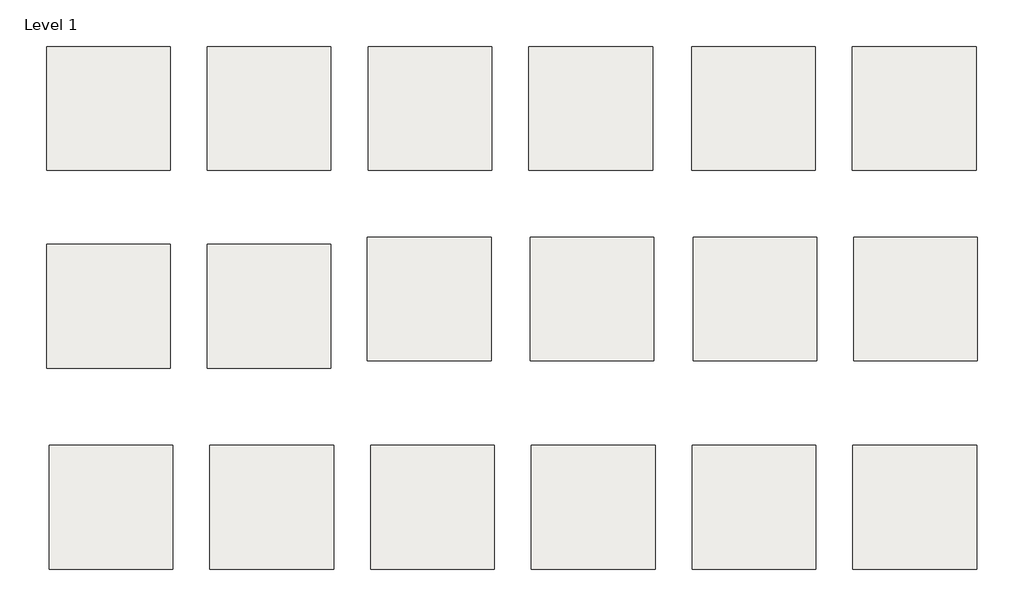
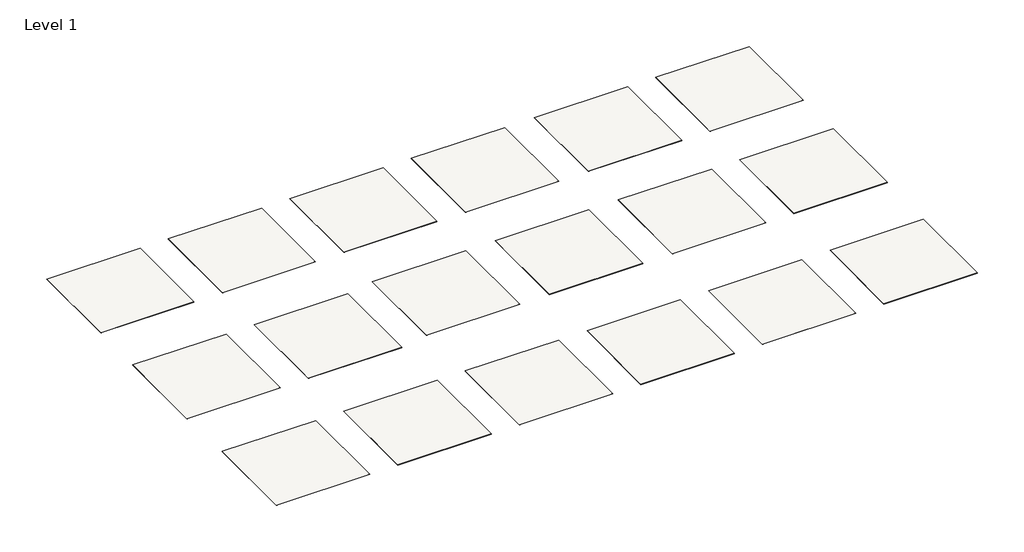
# One storey: 18 slabs.
"""IFC4 building model written with IfcOpenShell, lengths in millimetres."""

from ifc_helpers import new_model, si_unit, frame, origin, place, context, project, spatial, polyline, outline, extrude, element, save

model = new_model("IFC4")

# Units and contexts
model_context = context("Model", 3, world=origin())
ifc_project = project(units=[si_unit("LENGTHUNIT", "METRE", prefix="MILLI")], contexts=[model_context])

# Site, building, storey
site = spatial("IfcSite", under=ifc_project)
building = spatial("IfcBuilding", under=site)
storey = spatial("IfcBuildingStorey", under=building, Name="Level 1", Elevation=0.0)

# Slabs
placement = place(None, origin())
element("IfcSlab", 1, ObjectType="Armstrong_ColorArt_Medintech_84163 Almond", at=placement, inside=storey, context=model_context, shape_type="SweptSolid", body=[
    extrude(outline(polyline([(3311.6055838, 2884.7695431), (3311.6055838, 1360.7695431), (1787.6055838, 1360.7695431), (1787.6055838, 2884.7695431), (3311.6055838, 2884.7695431)])), frame((0.0, 0.0, -2.4804688), z_axis=(0.0, 0.0, 1.0), x_axis=(1.0, 0.0, 0.0)), (0.0, 0.0, 1.0), 2.4804688),
])
element("IfcSlab", 2, ObjectType="Armstrong_ColorArt_Medintech_84410 Color Fleck", at=placement, inside=storey, context=model_context, shape_type="SweptSolid", body=[
    extrude(outline(polyline([(7274.0055838, 2884.7695431), (7274.0055838, 1360.7695431), (5750.0055838, 1360.7695431), (5750.0055838, 2884.7695431), (7274.0055838, 2884.7695431)])), frame((0.0, 0.0, -2.4804688), z_axis=(0.0, 0.0, 1.0), x_axis=(1.0, 0.0, 0.0)), (0.0, 0.0, 1.0), 2.4804688),
])
element("IfcSlab", 3, ObjectType="Armstrong_ColorArt_Medintech_84620 Chateau Gray", at=placement, inside=storey, context=model_context, shape_type="SweptSolid", body=[
    extrude(outline(polyline([(9255.2055838, 2884.7695431), (9255.2055838, 1360.7695431), (7731.2055838, 1360.7695431), (7731.2055838, 2884.7695431), (9255.2055838, 2884.7695431)])), frame((0.0, 0.0, -2.4804688), z_axis=(0.0, 0.0, 1.0), x_axis=(1.0, 0.0, 0.0)), (0.0, 0.0, 1.0), 2.4804688),
])
element("IfcSlab", 4, ObjectType="Armstrong_ColorArt_Medintech_84760 Ixia", at=placement, inside=storey, context=model_context, shape_type="SweptSolid", body=[
    extrude(outline(polyline([(11261.8055838, 2884.7695431), (11261.8055838, 1360.7695431), (9737.8055838, 1360.7695431), (9737.8055838, 2884.7695431), (11261.8055838, 2884.7695431)])), frame((0.0, 0.0, -2.4804688), z_axis=(0.0, 0.0, 1.0), x_axis=(1.0, 0.0, 0.0)), (0.0, 0.0, 1.0), 2.4804688),
])
element("IfcSlab", 5, ObjectType="Armstrong_ColorArt_Medintech_84850 Freesia Pearl", at=placement, inside=storey, context=model_context, shape_type="SweptSolid", body=[
    extrude(outline(polyline([(13243.0055838, 2884.7695431), (13243.0055838, 1360.7695431), (11719.0055838, 1360.7695431), (11719.0055838, 2884.7695431), (13243.0055838, 2884.7695431)])), frame((0.0, 0.0, -2.4804688), z_axis=(0.0, 0.0, 1.0), x_axis=(1.0, 0.0, 0.0)), (0.0, 0.0, 1.0), 2.4804688),
])
element("IfcSlab", 6, ObjectType="Armstrong_ColorArt_Medintech_84880 Dahlia Sky", at=placement, inside=storey, context=model_context, shape_type="SweptSolid", body=[
    extrude(outline(polyline([(3311.6055838, 446.3695431), (3311.6055838, -1077.6304569), (1787.6055838, -1077.6304569), (1787.6055838, 446.3695431), (3311.6055838, 446.3695431)])), frame((0.0, 0.0, -2.4804688), z_axis=(0.0, 0.0, 1.0), x_axis=(1.0, 0.0, 0.0)), (0.0, 0.0, 1.0), 2.4804688),
])
element("IfcSlab", 7, ObjectType="Armstrong_ColorArt_Medintech_84970 Brushed Sand", at=placement, inside=storey, context=model_context, shape_type="SweptSolid", body=[
    extrude(outline(polyline([(5292.8055838, 446.3695431), (5292.8055838, -1077.6304569), (3768.8055838, -1077.6304569), (3768.8055838, 446.3695431), (5292.8055838, 446.3695431)])), frame((0.0, 0.0, -2.4804688), z_axis=(0.0, 0.0, 1.0), x_axis=(1.0, 0.0, 0.0)), (0.0, 0.0, 1.0), 2.4804688),
])
element("IfcSlab", 8, ObjectType="Armstrong_ColorArt_Medintech_84197 Silver Gray", at=placement, inside=storey, context=model_context, shape_type="SweptSolid", body=[
    extrude(outline(polyline([(5292.8055838, 2884.7695431), (5292.8055838, 1360.7695431), (3768.8055838, 1360.7695431), (3768.8055838, 2884.7695431), (5292.8055838, 2884.7695431)])), frame((0.0, 0.0, -2.4804688), z_axis=(0.0, 0.0, 1.0), x_axis=(1.0, 0.0, 0.0)), (0.0, 0.0, 1.0), 2.4804688),
])
element("IfcSlab", 9, ObjectType="Armstrong Flooring_Safety Zone™ Tile_84980_Granite Snow", at=placement, inside=storey, context=model_context, shape_type="SweptSolid", body=[
    extrude(outline(polyline([(7264.6456516, 537.0861361), (7264.6456516, -986.9138639), (5740.6456516, -986.9138639), (5740.6456516, 537.0861361), (7264.6456516, 537.0861361)])), frame((0.0, 0.0, -3.175), z_axis=(0.0, 0.0, 1.0), x_axis=(1.0, 0.0, 0.0)), (0.0, 0.0, 1.0), 3.175),
])
element("IfcSlab", 10, ObjectType="Armstrong Flooring_Safety Zone™ Tile_84981_Meadow Creek", at=placement, inside=storey, context=model_context, shape_type="SweptSolid", body=[
    extrude(outline(polyline([(9271.2456516, 537.0861361), (9271.2456516, -986.9138639), (7747.2456516, -986.9138639), (7747.2456516, 537.0861361), (9271.2456516, 537.0861361)])), frame((0.0, 0.0, -3.175), z_axis=(0.0, 0.0, 1.0), x_axis=(1.0, 0.0, 0.0)), (0.0, 0.0, 1.0), 3.175),
])
element("IfcSlab", 11, ObjectType="Armstrong Flooring_Safety Zone™ Tile_84982_Creek Fog", at=placement, inside=storey, context=model_context, shape_type="SweptSolid", body=[
    extrude(outline(polyline([(11277.8456516, 537.0861361), (11277.8456516, -986.9138639), (9753.8456516, -986.9138639), (9753.8456516, 537.0861361), (11277.8456516, 537.0861361)])), frame((0.0, 0.0, -3.175), z_axis=(0.0, 0.0, 1.0), x_axis=(1.0, 0.0, 0.0)), (0.0, 0.0, 1.0), 3.175),
])
element("IfcSlab", 12, ObjectType="Armstrong Flooring_Standard Excelon®_84983_Stone Dust", at=placement, inside=storey, context=model_context, shape_type="SweptSolid", body=[
    extrude(outline(polyline([(13259.0456516, 537.0861361), (13259.0456516, -986.9138639), (11735.0456516, -986.9138639), (11735.0456516, 537.0861361), (13259.0456516, 537.0861361)])), frame((0.0, 0.0, -3.175), z_axis=(0.0, 0.0, 1.0), x_axis=(1.0, 0.0, 0.0)), (0.0, 0.0, 1.0), 3.175),
])
element("IfcSlab", 13, ObjectType="Armstrong Flooring_Standard Excelon®_84984_Serene Tide", at=placement, inside=storey, context=model_context, shape_type="SweptSolid", body=[
    extrude(outline(polyline([(3342.7172774, -2030.0324704), (3342.7172774, -3554.0324704), (1818.7172774, -3554.0324704), (1818.7172774, -2030.0324704), (3342.7172774, -2030.0324704)])), frame((0.0, 0.0, -3.175), z_axis=(0.0, 0.0, 1.0), x_axis=(1.0, 0.0, 0.0)), (0.0, 0.0, 1.0), 3.175),
])
element("IfcSlab", 14, ObjectType="Armstrong Flooring_Standard Excelon®_84985_Morning Haze", at=placement, inside=storey, context=model_context, shape_type="SweptSolid", body=[
    extrude(outline(polyline([(5323.9172774, -2030.0324704), (5323.9172774, -3554.0324704), (3799.9172774, -3554.0324704), (3799.9172774, -2030.0324704), (5323.9172774, -2030.0324704)])), frame((0.0, 0.0, -3.175), z_axis=(0.0, 0.0, 1.0), x_axis=(1.0, 0.0, 0.0)), (0.0, 0.0, 1.0), 3.175),
])
element("IfcSlab", 15, ObjectType="Armstrong Flooring_Standard Excelon®_84986_Shore Sand", at=placement, inside=storey, context=model_context, shape_type="SweptSolid", body=[
    extrude(outline(polyline([(7305.1172774, -2030.0324704), (7305.1172774, -3554.0324704), (5781.1172774, -3554.0324704), (5781.1172774, -2030.0324704), (7305.1172774, -2030.0324704)])), frame((0.0, 0.0, -3.175), z_axis=(0.0, 0.0, 1.0), x_axis=(1.0, 0.0, 0.0)), (0.0, 0.0, 1.0), 3.175),
])
element("IfcSlab", 16, ObjectType="Armstrong Flooring_Standard Excelon®_84987_Stone Wall", at=placement, inside=storey, context=model_context, shape_type="SweptSolid", body=[
    extrude(outline(polyline([(9286.3172774, -2030.0324704), (9286.3172774, -3554.0324704), (7762.3172774, -3554.0324704), (7762.3172774, -2030.0324704), (9286.3172774, -2030.0324704)])), frame((0.0, 0.0, -3.175), z_axis=(0.0, 0.0, 1.0), x_axis=(1.0, 0.0, 0.0)), (0.0, 0.0, 1.0), 3.175),
])
element("IfcSlab", 17, ObjectType="Armstrong Flooring_Standard Excelon®_84988_Alpine Lake", at=placement, inside=storey, context=model_context, shape_type="SweptSolid", body=[
    extrude(outline(polyline([(11267.5172774, -2030.0324704), (11267.5172774, -3554.0324704), (9743.5172774, -3554.0324704), (9743.5172774, -2030.0324704), (11267.5172774, -2030.0324704)])), frame((0.0, 0.0, -3.175), z_axis=(0.0, 0.0, 1.0), x_axis=(1.0, 0.0, 0.0)), (0.0, 0.0, 1.0), 3.175),
])
element("IfcSlab", 18, ObjectType="Armstrong Flooring_Standard Excelon®_84989_Starry Night", at=placement, inside=storey, context=model_context, shape_type="SweptSolid", body=[
    extrude(outline(polyline([(13248.7172774, -2030.0324704), (13248.7172774, -3554.0324704), (11724.7172774, -3554.0324704), (11724.7172774, -2030.0324704), (13248.7172774, -2030.0324704)])), frame((0.0, 0.0, -3.175), z_axis=(0.0, 0.0, 1.0), x_axis=(1.0, 0.0, 0.0)), (0.0, 0.0, 1.0), 3.175),
])

save(model, "model.ifc")
